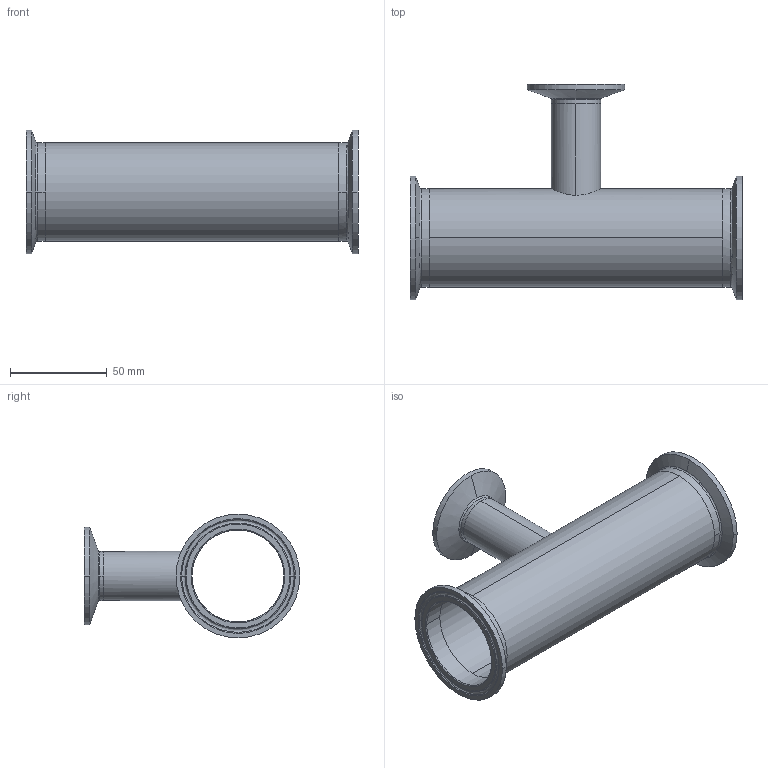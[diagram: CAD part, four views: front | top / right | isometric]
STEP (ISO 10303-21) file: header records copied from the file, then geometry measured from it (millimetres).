
FILE_DESCRIPTION (( 'STEP AP214' ), '1' );
FILE_NAME ('TEG7R6L2.0x1.0-...STEP', '2016-05-24T06:43:48', ( 'eran' ), ( '' ), 'SwSTEP 2.0', 'SolidWorks 2016', '' );
FILE_SCHEMA (( 'AUTOMOTIVE_DESIGN' ));
Length unit declared in the file: millimetre
Products named in the file (1): TEG7R6L2.0x1.0-..
Bounding box: 171.4 x 111.35 x 63.91 mm (x, y, z)
Volume: 65900.6 mm3; surface area: 69739.4 mm2
Topology: 4 solids, 4 shells, 86 faces, 214 edges, 140 vertices
Faces by surface type: bspline 30, cylinder 26, cone 18, plane 12
Entity records: 4723 total; most frequent: CARTESIAN_POINT 2609, DIRECTION 454, ORIENTED_EDGE 428, EDGE_CURVE 214, AXIS2_PLACEMENT_3D 205, CIRCLE 148, VERTEX_POINT 140, EDGE_LOOP 100
